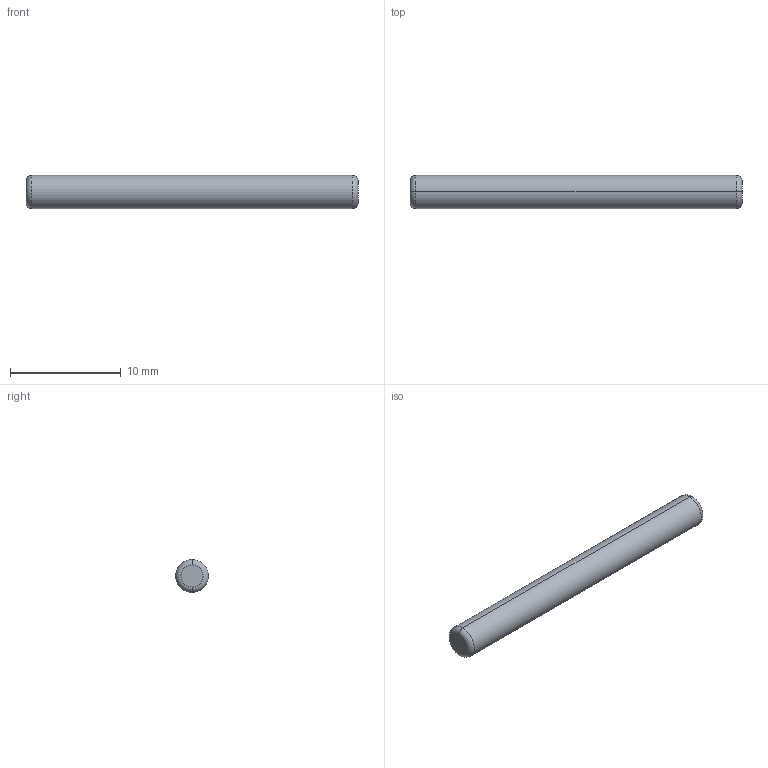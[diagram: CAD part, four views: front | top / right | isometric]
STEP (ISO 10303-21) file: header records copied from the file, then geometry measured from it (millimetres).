
FILE_DESCRIPTION (( 'STEP AP214' ), '1' );
FILE_NAME ('PAS-3x30.STEP', '2020-06-22T10:32:01', ( 'August' ), ( '' ), 'SwSTEP 2.0', 'SolidWorks 2018', '' );
FILE_SCHEMA (( 'AUTOMOTIVE_DESIGN' ));
Length unit declared in the file: millimetre
Products named in the file (1): PAS-3x30
Bounding box: 30 x 3 x 3 mm (x, y, z)
Volume: 211.1 mm3; surface area: 292.6 mm2
Topology: 1 solids, 1 shells, 8 faces, 14 edges, 8 vertices
Faces by surface type: torus 4, cylinder 2, plane 2
Entity records: 232 total; most frequent: DIRECTION 44, CARTESIAN_POINT 31, ORIENTED_EDGE 28, AXIS2_PLACEMENT_3D 21, EDGE_CURVE 14, CIRCLE 12, FACE_OUTER_BOUND 8, VERTEX_POINT 8
